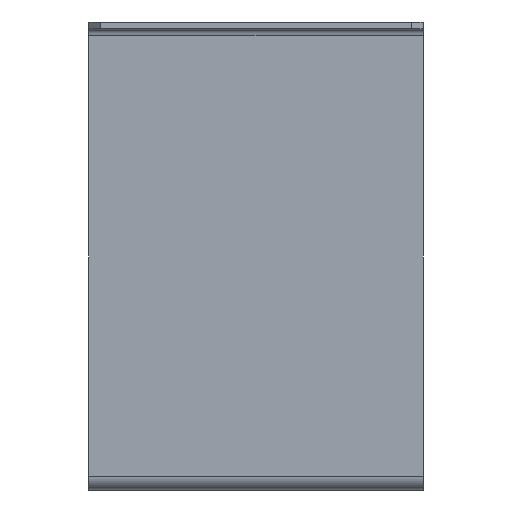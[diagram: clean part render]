
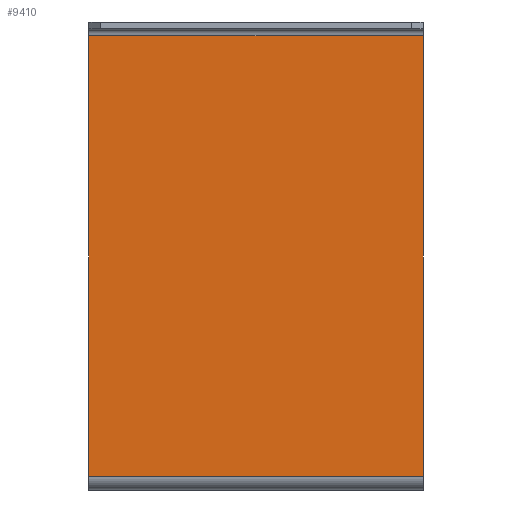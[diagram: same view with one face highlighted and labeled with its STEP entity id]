
A CAD part, left-side view. The second image highlights one B-rep face of the part: STEP entity #9410.
In plain terms, the highlighted planar face has unit normal (-1, 0, 0).
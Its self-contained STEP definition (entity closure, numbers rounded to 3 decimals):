
#8790=CARTESIAN_POINT('',(152.189,0.,-197.5));
#8800=VERTEX_POINT('',#8790);
#8980=CARTESIAN_POINT('',(152.189,145.,-197.5));
#8990=VERTEX_POINT('',#8980);
#9020=CARTESIAN_POINT('',(152.189,0.,-197.5));
#9030=DIRECTION('',(0.,-1.,0.));
#9040=VECTOR('',#9030,1.);
#9050=LINE('',#9020,#9040);
#9060=EDGE_CURVE('',#8990,#8800,#9050,.T.);
#9110=CARTESIAN_POINT('',(152.189,141.,-223.822));
#9120=DIRECTION('',(-1.,0.,0.));
#9130=DIRECTION('',(0.,0.,1.));
#9140=AXIS2_PLACEMENT_3D('',#9110,#9120,#9130);
#9150=PLANE('',#9140);
#9160=CARTESIAN_POINT('',(152.189,145.,150.457));
#9170=DIRECTION('',(0.,0.,1.));
#9180=VECTOR('',#9170,1.);
#9190=LINE('',#9160,#9180);
#9200=CARTESIAN_POINT('',(152.189,145.,-6.5));
#9210=VERTEX_POINT('',#9200);
#9220=EDGE_CURVE('',#8990,#9210,#9190,.T.);
#9230=ORIENTED_EDGE('',*,*,#9220,.F.);
#9240=CARTESIAN_POINT('',(152.189,0.,-6.5));
#9250=DIRECTION('',(0.,1.,0.));
#9260=VECTOR('',#9250,1.);
#9270=LINE('',#9240,#9260);
#9280=CARTESIAN_POINT('',(152.189,0.,-6.5));
#9290=VERTEX_POINT('',#9280);
#9300=EDGE_CURVE('',#9290,#9210,#9270,.T.);
#9310=ORIENTED_EDGE('',*,*,#9300,.T.);
#9320=CARTESIAN_POINT('',(152.189,0.,150.457));
#9330=DIRECTION('',(0.,0.,-1.));
#9340=VECTOR('',#9330,1.);
#9350=LINE('',#9320,#9340);
#9360=EDGE_CURVE('',#9290,#8800,#9350,.T.);
#9370=ORIENTED_EDGE('',*,*,#9360,.F.);
#9380=ORIENTED_EDGE('',*,*,#9060,.T.);
#9390=EDGE_LOOP('',(#9380,#9370,#9310,#9230));
#9400=FACE_OUTER_BOUND('',#9390,.T.);
#9410=ADVANCED_FACE('',(#9400),#9150,.T.);
